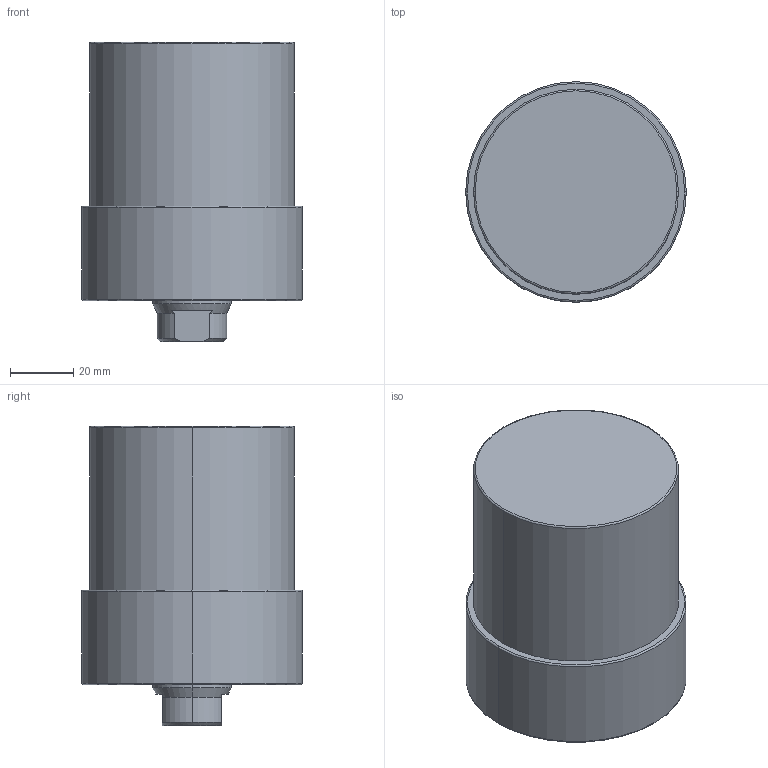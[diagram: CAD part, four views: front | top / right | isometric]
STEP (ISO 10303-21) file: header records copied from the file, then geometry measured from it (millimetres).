
FILE_DESCRIPTION (( 'STEP AP203' ), '1' );
FILE_NAME ('CLLU-065GA-035.STEP', '2020-01-06T08:06:45', ( '' ), ( '' ), 'SwSTEP 2.0', 'SolidWorks 2015', '' );
FILE_SCHEMA (( 'CONFIG_CONTROL_DESIGN' ));
Length unit declared in the file: millimetre
Products named in the file (1): CLLU-065GA-035
Bounding box: 70 x 70 x 95 mm (x, y, z)
Volume: 288542.7 mm3; surface area: 27782.4 mm2
Topology: 1 solids, 1 shells, 64 faces, 145 edges, 82 vertices
Faces by surface type: cone 25, cylinder 23, plane 10, torus 6
Entity records: 1811 total; most frequent: DIRECTION 332, CARTESIAN_POINT 310, ORIENTED_EDGE 270, AXIS2_PLACEMENT_3D 140, EDGE_CURVE 135, VERTEX_POINT 82, CIRCLE 75, EDGE_LOOP 73
